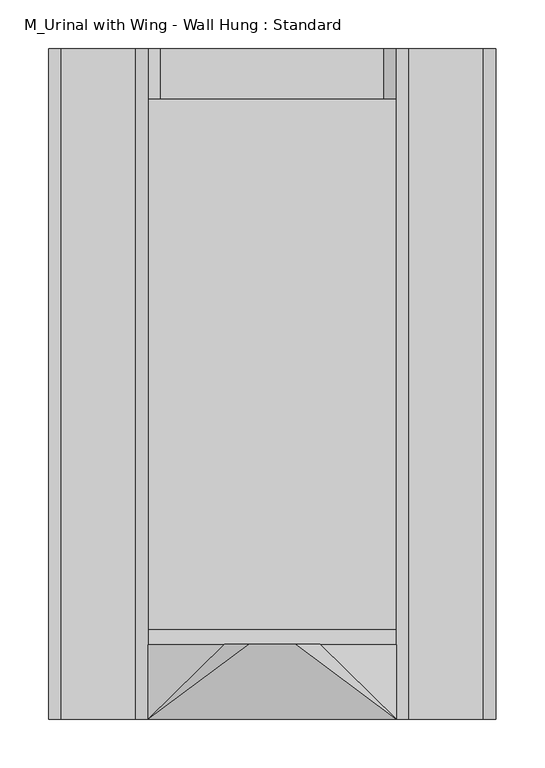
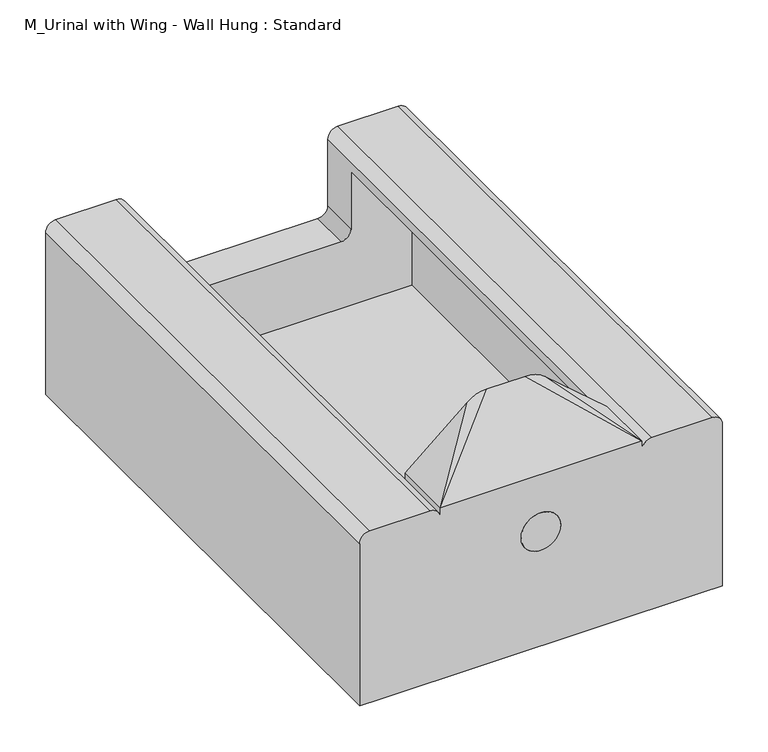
"""IFC4 building model written with IfcOpenShell, lengths in millimetres: flow terminal geometry, M_Urinal with Wing - Wall Hung : Standard."""

from ifc_helpers import new_model, si_unit, point, frame, frame_2d, origin, place, context, project, spatial, polyline, circle_curve, trimmed, segment, composite_curve, outline, extrude, source, transform, mapped, element, save
from ifc_brep_helpers import plane_surface, cylinder_surface, revolved_surface, spline_surface, advanced_brep


def m_urinal_with_wing_wall_hung_standard_c620f45a(model_context):
    return source(origin(), model_context, "Body", "SolidModel", [
        extrude(outline(composite_curve([segment(trimmed(circle_curve(frame_2d((152.4, 0.0)), 25.0), [point((152.4, -25.0))], [point((152.4, 25.0))], False, "CARTESIAN"), True, "CONTINUOUS"), segment(trimmed(circle_curve(frame_2d((152.4, 0.0)), 25.0), [point((152.4, 25.0))], [point((152.4, -25.0))], False, "CARTESIAN"), True, "CONTINUOUS")], self_intersect=False)), frame((0.0, -76.2, 0.0), z_axis=(0.0, 1.0, 0.0), x_axis=(0.0, 0.0, 1.0)), (0.0, 0.0, 1.0), 3.175),
        advanced_brep(
        [(127.0, -76.2, 228.6), (-127.0, -76.2, 228.6), (-127.0, -76.2, 215.9), (-139.7, -76.2, 228.6), (-215.9, -76.2, 228.6), (-228.6, -76.2, 215.9), (-228.6, -76.2, 0.0), (-203.2, -76.2, 0.0), (203.2, -76.2, 0.0), (228.6, -76.2, 0.0), (228.6, -76.2, 215.9), (215.9, -76.2, 228.6), (139.7, -76.2, 228.6), (127.0, -76.2, 215.9), (25.0, -76.2, 152.4), (-25.0, -76.2, 152.4), (48.801044, 0.0, 295.6276766), (127.0, 0.0, 228.6), (127.0, 0.0, 215.9), (127.0, 0.0, 203.5096683), (38.1869757, 0.0, 279.6351177), (21.6568748, 0.0, 285.75), (-21.6568748, 0.0, 285.75), (-38.1869757, 0.0, 279.6351177), (-127.0, 0.0, 203.5096683), (-127.0, 0.0, 215.9), (-127.0, 0.0, 228.6), (-48.801044, 0.0, 295.6276766), (-24.0058927, 0.0, 304.8), (24.0058927, 0.0, 304.8), (-127.0, -73.025, 203.5096683), (127.0, -73.025, 203.5096683), (127.0, -73.025, 203.2), (203.2, -73.025, 203.2), (203.2, -73.025, 152.4), (203.2, -73.025, 114.2065367), (-203.2, -73.025, 114.2065367), (-203.2, -73.025, 152.4), (-203.2, -73.025, 203.2), (-127.0, -73.025, 203.2), (-25.0, -73.025, 152.4), (25.0, -73.025, 152.4), (228.6, 608.8, 0.0), (-228.6, 608.8, 0.0), (-228.6, 608.8, 215.9), (-215.9, 608.8, 228.6), (-139.7, 608.8, 228.6), (-127.0, 608.8, 215.9), (-127.0, 608.8, 127.0), (-114.3, 608.8, 114.3), (114.3, 608.8, 114.3), (127.0, 608.8, 127.0), (127.0, 608.8, 215.9), (139.7, 608.8, 228.6), (215.9, 608.8, 228.6), (228.6, 608.8, 215.9), (127.0, 558.0, 127.0), (127.0, 558.0, 152.4), (127.0, 558.0, 203.2), (114.3, 558.0, 114.3), (-114.3, 558.0, 114.3), (-127.0, 558.0, 127.0), (-127.0, 558.0, 203.2), (-127.0, 558.0, 152.4), (203.2, 558.0, 203.2), (-203.2, 558.0, 203.2), (-203.2, 558.0, 25.4), (203.2, 558.0, 25.4), (-203.2, -61.8657684, 87.2657684), (-203.2, -11.1592316, 36.5592316), (-203.2, 15.7815367, 25.4), (-203.2, 44.45, 25.4), (203.2, 15.7815367, 25.4), (203.2, 44.45, 25.4), (203.2, -11.1592316, 36.5592316), (203.2, -61.8657684, 87.2657684)],
        [
            (0, 1),
            (1, 2),
            (2, 3, circle_curve(frame((-139.7, -76.2, 215.9), z_axis=(0.0, -1.0, 0.0), x_axis=(1.0, 0.0, 0.0)), 12.7)),
            (3, 4),
            (4, 5, circle_curve(frame((-215.9, -76.2, 215.9), z_axis=(0.0, -1.0, 0.0), x_axis=(1.0, 0.0, 0.0)), 12.7)),
            (5, 6),
            (6, 7),
            (7, 8),
            (8, 9),
            (9, 10),
            (10, 11, circle_curve(frame((215.9, -76.2, 215.9), z_axis=(0.0, -1.0, 0.0), x_axis=(1.0, 0.0, 0.0)), 12.7)),
            (11, 12),
            (12, 13, circle_curve(frame((139.7, -76.2, 215.9), z_axis=(0.0, -1.0, 0.0), x_axis=(1.0, 0.0, 0.0)), 12.7)),
            (13, 0),
            (14, 15, circle_curve(frame((0.0, -76.2, 152.4), z_axis=(0.0, 1.0, 0.0), x_axis=(1.0, 0.0, 0.0)), 25.0)),
            (15, 14, circle_curve(frame((0.0, -76.2, 152.4), z_axis=(0.0, 1.0, 0.0), x_axis=(1.0, 0.0, 0.0)), 25.0)),
            (16, 17),
            (17, 18),
            (18, 19),
            (19, 20),
            (20, 21, circle_curve(frame((21.6568748, 0.0, 260.35), z_axis=(0.0, -1.0, 0.0), x_axis=(1.0, 0.0, 0.0)), 25.4)),
            (21, 22),
            (22, 23, circle_curve(frame((-21.6568748, 0.0, 260.35), z_axis=(0.0, -1.0, 0.0), x_axis=(1.0, 0.0, 0.0)), 25.4)),
            (23, 24),
            (24, 25),
            (25, 26),
            (26, 27),
            (27, 28, circle_curve(frame((-24.0058927, 0.0, 266.7), z_axis=(0.0, 1.0, 0.0), x_axis=(1.0, 0.0, 0.0)), 38.1)),
            (28, 29),
            (29, 16, circle_curve(frame((24.0058927, 0.0, 266.7), z_axis=(0.0, 1.0, 0.0), x_axis=(1.0, 0.0, 0.0)), 38.1)),
            (29, 0),
            (0, 16),
            (28, 1),
            (27, 1),
            (26, 1),
            (25, 2),
            (17, 0),
            (13, 18),
            (30, 31),
            (31, 32),
            (32, 33),
            (33, 34),
            (34, 35),
            (35, 36),
            (36, 37),
            (37, 38),
            (38, 39),
            (39, 30),
            (40, 41, circle_curve(frame((0.0, -73.025, 152.4), z_axis=(0.0, -1.0, 0.0), x_axis=(1.0, 0.0, 0.0)), 25.0)),
            (41, 40, circle_curve(frame((0.0, -73.025, 152.4), z_axis=(0.0, -1.0, 0.0), x_axis=(1.0, 0.0, 0.0)), 25.0)),
            (20, 31),
            (31, 21),
            (30, 22),
            (30, 23),
            (30, 24),
            (19, 31),
            (42, 43),
            (43, 44),
            (44, 45, circle_curve(frame((-215.9, 608.8, 215.9), z_axis=(0.0, 1.0, 0.0), x_axis=(1.0, 0.0, 0.0)), 12.7)),
            (45, 46),
            (46, 47, circle_curve(frame((-139.7, 608.8, 215.9), z_axis=(0.0, 1.0, 0.0), x_axis=(1.0, 0.0, 0.0)), 12.7)),
            (47, 48),
            (48, 49, circle_curve(frame((-114.3, 608.8, 127.0), z_axis=(0.0, -1.0, 0.0), x_axis=(1.0, 0.0, 0.0)), 12.7)),
            (49, 50),
            (50, 51, circle_curve(frame((114.3, 608.8, 127.0), z_axis=(0.0, -1.0, 0.0), x_axis=(1.0, 0.0, 0.0)), 12.7)),
            (51, 52),
            (52, 53, circle_curve(frame((139.7, 608.8, 215.9), z_axis=(0.0, 1.0, 0.0), x_axis=(1.0, 0.0, 0.0)), 12.7)),
            (53, 54),
            (54, 55, circle_curve(frame((215.9, 608.8, 215.9), z_axis=(0.0, 1.0, 0.0), x_axis=(1.0, 0.0, 0.0)), 12.7)),
            (55, 42),
            (9, 42),
            (55, 10),
            (54, 11),
            (53, 12),
            (52, 18),
            (51, 56),
            (56, 57),
            (57, 58),
            (58, 32),
            (50, 59),
            (59, 56, circle_curve(frame((114.3, 558.0, 127.0), z_axis=(0.0, -1.0, 0.0), x_axis=(1.0, 0.0, 0.0)), 12.7)),
            (49, 60),
            (60, 59),
            (48, 61),
            (61, 60, circle_curve(frame((-114.3, 558.0, 127.0), z_axis=(0.0, -1.0, 0.0), x_axis=(1.0, 0.0, 0.0)), 12.7)),
            (47, 25),
            (39, 62),
            (62, 63),
            (63, 61),
            (46, 3),
            (45, 4),
            (44, 5),
            (43, 6),
            (64, 58),
            (62, 65),
            (65, 66),
            (66, 67),
            (67, 64),
            (64, 33),
            (38, 65),
            (36, 68, circle_curve(frame((-203.2, -34.925, 114.2065367), z_axis=(1.0, 0.0, 0.0), x_axis=(0.0, 1.0, 0.0)), 38.1)),
            (68, 69),
            (69, 70, circle_curve(frame((-203.2, 15.7815367, 63.5), z_axis=(1.0, 0.0, 0.0), x_axis=(0.0, 1.0, 0.0)), 38.1)),
            (70, 71),
            (71, 66),
            (70, 72),
            (72, 73),
            (73, 67),
            (72, 74, circle_curve(frame((203.2, 15.7815367, 63.5), z_axis=(-1.0, 0.0, 0.0), x_axis=(0.0, 1.0, 0.0)), 38.1)),
            (74, 75),
            (75, 35, circle_curve(frame((203.2, -34.925, 114.2065367), z_axis=(-1.0, 0.0, 0.0), x_axis=(0.0, 1.0, 0.0)), 38.1)),
            (75, 68),
            (69, 74),
            (40, 15),
            (14, 41),
        ],
        [
            plane_surface(frame((0.0, -76.2, 171.45), z_axis=(0.0, -1.0, 0.0), x_axis=(0.0, 0.0, -1.0))),
            plane_surface(frame((0.0, 0.0, 235.8319191), z_axis=(0.0, 1.0, 0.0), x_axis=(0.0, 0.0, -1.0))),
            spline_surface(2, 1, [[(48.801044, 0.0, 295.6276766), (127.0, -76.2, 228.6)], [(38.099999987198, 0.0, 304.80000002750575), (127.0, -76.2, 228.6)], [(24.0058927, 0.0, 304.8), (127.0, -76.2, 228.6)]], [3, 3], [2, 2], [0.0, 1.0], [0.0, 1.0], weights=[[1.0, 1.0], [0.9378850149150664, 0.9378850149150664], [1.0, 1.0]]),
            plane_surface(frame((0.0, 0.0, 304.8), z_axis=(0.0, -0.7071067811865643, 0.7071067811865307), x_axis=(-1.0, 0.0, 0.0))),
            spline_surface(2, 1, [[(-24.0058927, 0.0, 304.8), (-127.0, -76.2, 228.6)], [(-38.09999997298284, 0.0, 304.7999999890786), (-127.0, -76.2, 228.6)], [(-48.801044, 0.0, 295.6276766), (-127.0, -76.2, 228.6)]], [3, 3], [2, 2], [0.0, 1.0], [0.0, 1.0], weights=[[1.0, 1.0], [0.9378850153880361, 0.9378850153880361], [1.0, 1.0]]),
            plane_surface(frame((-87.900522, 0.0, 262.1138383), z_axis=(-0.6507913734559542, 0.0, 0.7592566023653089), x_axis=(-0.7592566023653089, 0.0, -0.6507913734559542))),
            plane_surface(frame((-127.0, 0.0, 171.45), z_axis=(-1.0, 0.0, 0.0), x_axis=(0.0, 0.0, -1.0))),
            plane_surface(frame((127.0, 0.0, 171.45), z_axis=(1.0, 0.0, 0.0), x_axis=(0.0, 0.0, 1.0))),
            plane_surface(frame((87.900522, 0.0, 262.1138383), z_axis=(0.6507913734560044, 0.0, 0.7592566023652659), x_axis=(-0.7592566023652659, 0.0, 0.6507913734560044))),
            plane_surface(frame((0.0, -73.025, 158.9048341), z_axis=(0.0, 1.0, 0.0), x_axis=(1.0, 0.0, 0.0))),
            spline_surface(1, 2, [[(38.1869757, 0.0, 279.6351177), (31.052946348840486, 0.0, 285.7500000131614), (21.6568748, 0.0, 285.75)], [(127.0, -73.025, 203.5096683), (127.0, -73.025, 203.5096683), (127.0, -73.025, 203.5096683)]], [2, 2], [3, 3], [0.0, 1.0], [0.0, 1.0], weights=[[1.0, 0.9378850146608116, 1.0], [1.0, 0.9378850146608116, 1.0]]),
            plane_surface(frame((0.0, 0.0, 285.75), z_axis=(0.0, 0.7477591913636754, -0.6639700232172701), x_axis=(-1.0, 0.0, 0.0))),
            spline_surface(1, 2, [[(-21.6568748, 0.0, 285.75), (-31.052946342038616, 0.0, 285.74999999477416), (-38.1869757, 0.0, 279.6351177)], [(-127.0, -73.025, 203.5096683), (-127.0, -73.025, 203.5096683), (-127.0, -73.025, 203.5096683)]], [2, 2], [3, 3], [0.0, 1.0], [0.0, 1.0], weights=[[1.0, 0.937885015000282, 1.0], [1.0, 0.937885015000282, 1.0]]),
            plane_surface(frame((-82.5934878, 0.0, 241.572393), z_axis=(0.6507913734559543, 0.0, -0.7592566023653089), x_axis=(-0.7592566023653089, 0.0, -0.6507913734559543))),
            plane_surface(frame((82.5934878, 0.0, 241.572393), z_axis=(-0.6507913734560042, 0.0, -0.7592566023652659), x_axis=(-0.7592566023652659, 0.0, 0.6507913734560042))),
            plane_surface(frame((228.6, 608.8, 228.6), z_axis=(0.0, 1.0, 0.0), x_axis=(0.0, 0.0, -1.0))),
            plane_surface(frame((228.6, -76.2, 0.0), z_axis=(1.0, 0.0, 0.0), x_axis=(0.0, 1.0, 0.0))),
            cylinder_surface(frame((215.9, 608.8, 215.9), z_axis=(0.0, -1.0, 0.0), x_axis=(1.0, 0.0, 0.0)), 12.7),
            plane_surface(frame((215.9, -76.2, 228.6), z_axis=(0.0, 0.0, 1.0), x_axis=(0.0, 1.0, 0.0))),
            cylinder_surface(frame((139.7, 608.8, 215.9), z_axis=(0.0, -1.0, 0.0), x_axis=(1.0, 0.0, 0.0)), 12.7),
            plane_surface(frame((127.0, -76.2, 215.9), z_axis=(-1.0, 0.0, 0.0), x_axis=(0.0, 1.0, 0.0))),
            revolved_surface(polyline([(127.0, 608.8, 127.0), (127.0, 558.0, 127.0)]), (114.3, 608.8, 127.0), (0.0, 1.0, 0.0)),
            plane_surface(frame((114.3, -76.2, 114.3), z_axis=(0.0, 0.0, 1.0), x_axis=(0.0, 1.0, 0.0))),
            revolved_surface(polyline([(-101.6, 608.8, 127.0), (-101.6, 558.0, 127.0)]), (-114.3, 608.8, 127.0), (0.0, 1.0, 0.0)),
            plane_surface(frame((-127.0, -76.2, 127.0), z_axis=(1.0, 0.0, 0.0), x_axis=(0.0, 1.0, 0.0))),
            cylinder_surface(frame((-139.7, 608.8, 215.9), z_axis=(0.0, -1.0, 0.0), x_axis=(1.0, 0.0, 0.0)), 12.7),
            plane_surface(frame((-139.7, -76.2, 228.6), z_axis=(0.0, 0.0, 1.0), x_axis=(0.0, 1.0, 0.0))),
            cylinder_surface(frame((-215.9, 608.8, 215.9), z_axis=(0.0, -1.0, 0.0), x_axis=(1.0, 0.0, 0.0)), 12.7),
            plane_surface(frame((-228.6, -76.2, 215.9), z_axis=(-1.0, 0.0, 0.0), x_axis=(0.0, 1.0, 0.0))),
            plane_surface(frame((-228.6, -76.2, 0.0), z_axis=(0.0, 0.0, -1.0), x_axis=(0.0, 1.0, 0.0))),
            plane_surface(frame((228.6, 558.0, 203.2), z_axis=(0.0, -1.0, 0.0), x_axis=(1.0, 0.0, 0.0))),
            plane_surface(frame((203.2, -73.025, 203.2), z_axis=(0.0, 0.0, -1.0), x_axis=(0.0, 1.0, 0.0))),
            plane_surface(frame((-127.0, -73.025, 203.2), z_axis=(0.0, 0.0, -1.0), x_axis=(0.0, 1.0, 0.0))),
            plane_surface(frame((-203.2, -73.025, 203.2), z_axis=(1.0, 0.0, 0.0), x_axis=(0.0, 1.0, 0.0))),
            plane_surface(frame((-203.2, -73.025, 25.4), z_axis=(0.0, 0.0, 1.0), x_axis=(0.0, 1.0, 0.0))),
            plane_surface(frame((203.2, -73.025, 25.4), z_axis=(-1.0, 0.0, 0.0), x_axis=(0.0, 1.0, 0.0))),
            revolved_surface(polyline([(-203.2, 3.1750000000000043, 114.2065367), (203.2, 3.1750000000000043, 114.2065367)]), (-203.2, -34.925, 114.2065367), (-1.0, 0.0, 0.0)),
            revolved_surface(polyline([(-203.2, 53.8815367, 63.5), (203.2, 53.8815367, 63.5)]), (-203.2, 15.7815367, 63.5), (-1.0, 0.0, 0.0)),
            plane_surface(frame((203.2, -11.1592316, 36.5592316), z_axis=(0.0, 0.7071067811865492, 0.7071067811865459), x_axis=(-1.0, 0.0, 0.0))),
            revolved_surface(polyline([(25.0, -76.2, 152.4), (25.0, -73.025, 152.4)]), (0.0, 0.0, 152.4), (0.0, -1.0, 0.0)),
        ],
        [
            (0, [[1, 2, 3, 4, 5, 6, 7, 8, 9, 10, 11, 12, 13, 14], [15, 16]]),
            (1, [[17, 18, 19, 20, 21, 22, 23, 24, 25, 26, 27, 28, 29, 30]]),
            (2, [[-30, 31, 32]]),
            (3, [[-1, -31, -29, 33]]),
            (4, [[-28, 34, -33]]),
            (5, [[-27, 35, -34]]),
            (6, [[-35, -26, 36, -2]]),
            (7, [[37, -14, 38, -18]]),
            (8, [[-17, -32, -37]]),
            (9, [[39, 40, 41, 42, 43, 44, 45, 46, 47, 48], [49, 50]]),
            (10, [[51, 52, -21]]),
            (11, [[-39, 53, -22, -52]]),
            (12, [[-53, 54, -23]]),
            (13, [[-54, 55, -24]]),
            (14, [[-51, -20, 56]]),
            (15, [[57, 58, 59, 60, 61, 62, 63, 64, 65, 66, 67, 68, 69, 70]]),
            (16, [[-10, 71, -70, 72]]),
            (17, [[-11, -72, -69, 73]]),
            (18, [[-12, -73, -68, 74]]),
            (19, [[-13, -74, -67, 75, -38]]),
            (20, [[-66, 76, 77, 78, 79, -40, -56, -19, -75]]),
            (21, [[-65, 80, 81, -76]]),
            (22, [[-64, 82, 83, -80]]),
            (23, [[-63, 84, 85, -82]]),
            (24, [[-62, 86, -25, -55, -48, 87, 88, 89, -84]]),
            (25, [[-3, -36, -86, -61, 90]]),
            (26, [[-4, -90, -60, 91]]),
            (27, [[-5, -91, -59, 92]]),
            (28, [[-6, -92, -58, 93]]),
            (29, [[-57, -71, -9, -8, -7, -93]]),
            (30, [[94, -78, -77, -81, -83, -85, -89, -88, 95, 96, 97, 98]]),
            (31, [[-41, -79, -94, 99]]),
            (32, [[-47, 100, -95, -87]]),
            (33, [[-96, -100, -46, -45, 101, 102, 103, 104, 105]]),
            (34, [[-97, -105, -104, 106, 107, 108]]),
            (35, [[-98, -108, -107, 109, 110, 111, -43, -42, -99]]),
            (36, [[112, -101, -44, -111]]),
            (37, [[113, -109, -106, -103]]),
            (38, [[-112, -110, -113, -102]]),
            (39, [[114, -15, 115, -49]]),
            (39, [[-114, -50, -115, -16]]),
        ],
    ),
    ])


if __name__ == "__main__":
    model = new_model("IFC4")
    model_context = context("Model", 3, world=origin())
    ifc_project = project(units=[si_unit("LENGTHUNIT", "METRE", prefix="MILLI")], contexts=[model_context])
    site = spatial("IfcSite", under=ifc_project)
    building = spatial("IfcBuilding", under=site)
    placement = place(None, origin())
    m_urinal_with_wing_wall_hung_standard_shape = m_urinal_with_wing_wall_hung_standard_c620f45a(model_context)
    element("IfcFlowTerminal", 1, ObjectType="M_Urinal with Wing - Wall Hung : Standard", at=placement, inside=building, context=model_context, shape_type="MappedRepresentation", body=[
        mapped(m_urinal_with_wing_wall_hung_standard_shape, transform((0.0, 0.0, 0.0), x_axis=(1.0, 0.0, 0.0), y_axis=(0.0, 1.0, 0.0), z_axis=(0.0, 0.0, 1.0))),
    ])
    save(model, "model.ifc")
